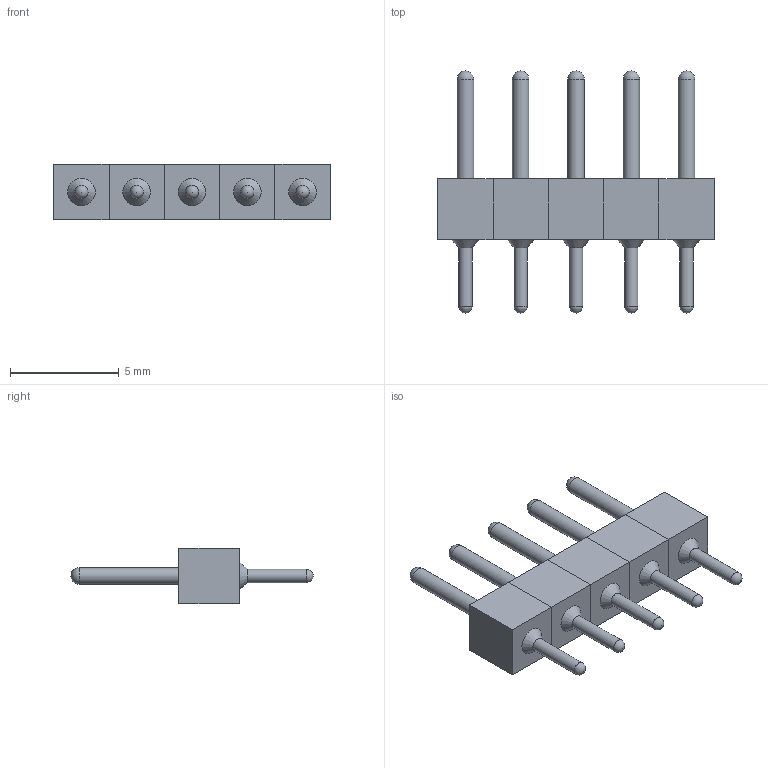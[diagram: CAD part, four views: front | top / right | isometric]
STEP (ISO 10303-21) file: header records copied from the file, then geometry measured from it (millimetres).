
FILE_DESCRIPTION(/* description */ (''),/* implementation_level */ '2;1');
FILE_NAME(/* name */ 'C:/Users/Nicholas/Downloads/MA05 v1.step',/* time_stamp */ '2021-06-05T21:23:53-07:00',/* author */ (''),/* organization */ (''),/* preprocessor_version */ 'ST-DEVELOPER v18.1',/* originating_system */ 'Autodesk Translation Framework v10.9.0.1377',/* authorisation */ '');
FILE_SCHEMA (('AUTOMOTIVE_DESIGN { 1 0 10303 214 3 1 1 }'));
Length unit declared in the file: inch
Products named in the file (1): MA05
Bounding box: 12.7 x 11.13 x 2.54 mm (x, y, z)
Volume: 106.7 mm3; surface area: 293.3 mm2
Topology: 5 solids, 5 shells, 55 faces, 130 edges, 85 vertices
Faces by surface type: plane 30, sphere 10, cylinder 10, cone 5
Full cylindrical faces by diameter (mm): 0.61 x5, 0.762 x5
Entity records: 1609 total; most frequent: DIRECTION 277, CARTESIAN_POINT 261, ORIENTED_EDGE 240, EDGE_CURVE 120, AXIS2_PLACEMENT_3D 101, VERTEX_POINT 85, LINE 75, VECTOR 75
